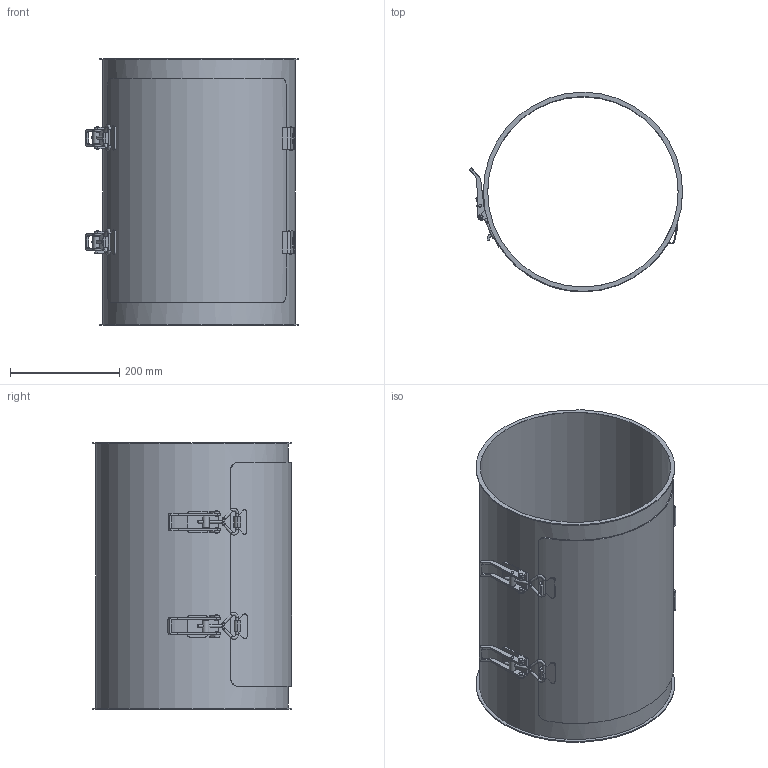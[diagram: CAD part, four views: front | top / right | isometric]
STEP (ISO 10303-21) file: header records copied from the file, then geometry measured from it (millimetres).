
FILE_DESCRIPTION((''),'2;1');
FILE_NAME('U:\Wolfgang\Marcel-3D\fertig\Kapitel 4\3521142.stp','2011-04-21T08:22:37',('TK1'),(''),'Autodesk Inventor 2010','Autodesk Inventor 2010','');
FILE_SCHEMA(('AUTOMOTIVE_DESIGN { 1 0 10303 214 1 1 1 1 }'));
Length unit declared in the file: millimetre
Products named in the file (14): 3521142; 3521142-Rohr; 3521142-verschluss; Verschluss ab 35-1; Verschluss ab 35-2; Verschluss ab 35-3; Verschluss ab 35-4; Verschluss ab 35-5; Gelenk35; Deckel35; 3521142-Deckel; verschluss35; 3521142 Halterung2; 3521142 Halterung3
Assembly tree (19 placements, depth 3):
  3521142
    3521142-Rohr
    3521142-verschluss  x2
      Verschluss ab 35-1
      Verschluss ab 35-2
      Verschluss ab 35-3
      Verschluss ab 35-4
      Verschluss ab 35-5
    Gelenk35  x2
    Deckel35
      3521142-Deckel
      verschluss35  x2
      3521142 Halterung2  x2
    3521142 Halterung3  x2
Bounding box: 390.48 x 365 x 488 mm (x, y, z)
Volume: 1262925.5 mm3; surface area: 1262027.7 mm2
Topology: 22 solids, 22 shells, 334 faces, 815 edges, 535 vertices
Faces by surface type: plane 157, cylinder 138, bspline 19, sphere 12, torus 8
Full cylindrical faces by diameter (mm): 4.917 x2, 5 x32, 6 x8, 12 x2, 349 x1, 353 x1, 365 x2
Entity records: 5933 total; most frequent: CARTESIAN_POINT 1352, DIRECTION 934, ORIENTED_EDGE 796, EDGE_CURVE 398, AXIS2_PLACEMENT_3D 363, VERTEX_POINT 279, EDGE_LOOP 241, VECTOR 208
